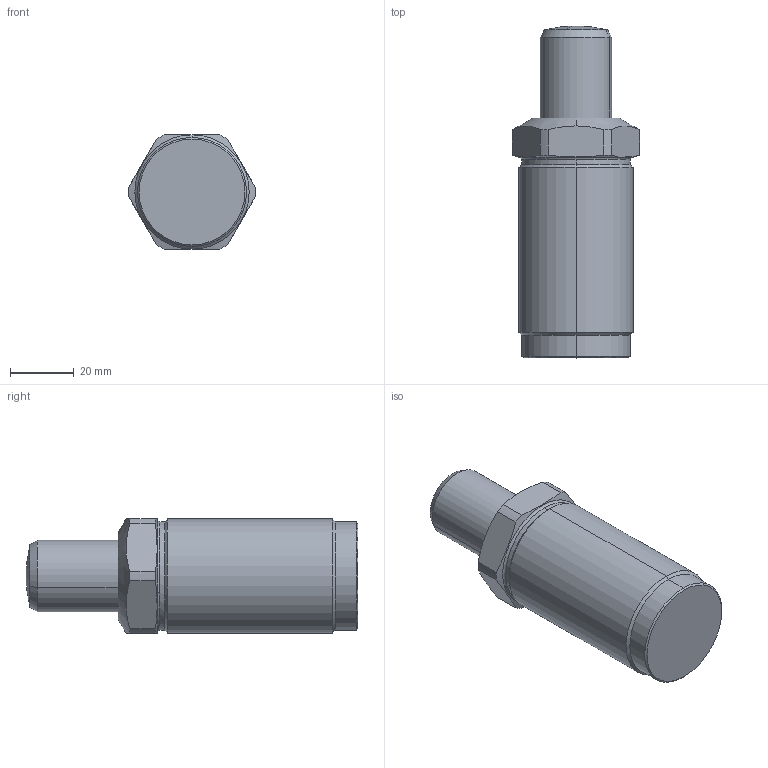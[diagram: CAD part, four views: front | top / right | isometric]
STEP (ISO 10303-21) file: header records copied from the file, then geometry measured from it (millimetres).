
FILE_DESCRIPTION((' '),'2;1');
FILE_NAME( 'CMC10-25R.x_t.stp', '2024-08-27T13:58:39', (' '), ('--- Datakit www.datakit.com---'), ' Datakit CrossCadWare V2024.1 Dec 21 2023', 'Mastercam 2025', ' ');
FILE_SCHEMA(('AUTOMOTIVE_DESIGN { 1 0 10303 214 1 1 1 1 }'));
Length unit declared in the file: millimetre
Products named in the file (1): CMC10-25R
Bounding box: 39.99 x 104.5 x 36 mm (x, y, z)
Volume: 77399.7 mm3; surface area: 14955.2 mm2
Topology: 2 solids, 2 shells, 42 faces, 103 edges, 64 vertices
Faces by surface type: cylinder 16, cone 12, plane 10, torus 2, sphere 2
Entity records: 1379 total; most frequent: CARTESIAN_POINT 340, DIRECTION 222, ORIENTED_EDGE 202, EDGE_CURVE 101, AXIS2_PLACEMENT_3D 94, VERTEX_POINT 64, CIRCLE 51, EDGE_LOOP 43
